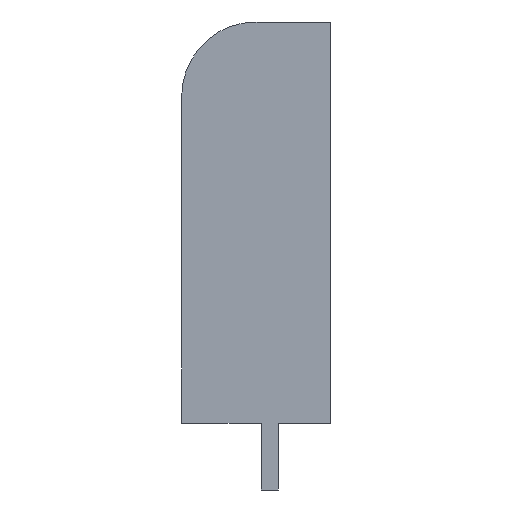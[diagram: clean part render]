
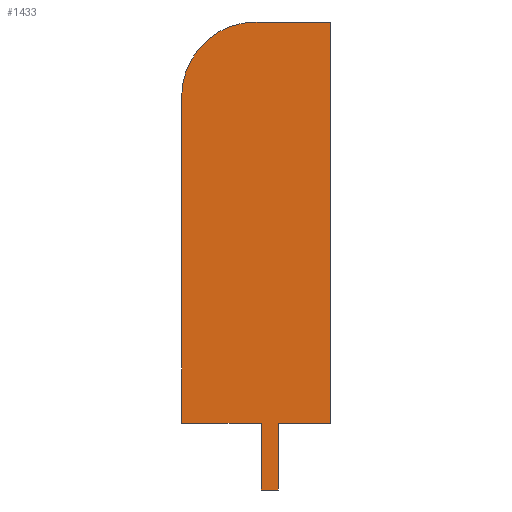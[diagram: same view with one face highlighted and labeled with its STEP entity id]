
A CAD part, left-side view. The second image highlights one B-rep face of the part: STEP entity #1433.
In plain terms, the highlighted planar face has unit normal (-1, 0, 0).
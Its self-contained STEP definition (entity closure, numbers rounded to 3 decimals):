
#43=PLANE('',#1534);
#132=FACE_OUTER_BOUND('',#215,.T.);
#215=EDGE_LOOP('',(#1289,#1290,#1291,#1292,#1293,#1294,#1295,#1296,#1297));
#238=CIRCLE('',#1516,5.);
#390=LINE('',#5804,#476);
#394=LINE('',#5812,#480);
#399=LINE('',#5827,#485);
#402=LINE('',#5833,#488);
#405=LINE('',#5838,#491);
#413=LINE('',#5852,#499);
#434=LINE('',#5898,#520);
#435=LINE('',#5900,#521);
#476=VECTOR('',#1708,10.);
#480=VECTOR('',#1714,10.);
#485=VECTOR('',#1727,10.);
#488=VECTOR('',#1732,10.);
#491=VECTOR('',#1737,10.);
#499=VECTOR('',#1749,10.);
#520=VECTOR('',#1792,10.);
#521=VECTOR('',#1795,10.);
#634=VERTEX_POINT('',#5802);
#635=VERTEX_POINT('',#5803);
#638=VERTEX_POINT('',#5811);
#640=VERTEX_POINT('',#5817);
#641=VERTEX_POINT('',#5818);
#644=VERTEX_POINT('',#5826);
#646=VERTEX_POINT('',#5832);
#651=VERTEX_POINT('',#5850);
#665=VERTEX_POINT('',#5896);
#832=EDGE_CURVE('',#634,#635,#390,.T.);
#836=EDGE_CURVE('',#638,#634,#394,.T.);
#839=EDGE_CURVE('',#640,#641,#238,.T.);
#843=EDGE_CURVE('',#644,#640,#399,.T.);
#846=EDGE_CURVE('',#646,#644,#402,.T.);
#849=EDGE_CURVE('',#635,#646,#405,.T.);
#857=EDGE_CURVE('',#651,#638,#413,.T.);
#880=EDGE_CURVE('',#665,#641,#434,.T.);
#881=EDGE_CURVE('',#651,#665,#435,.T.);
#1289=ORIENTED_EDGE('',*,*,#881,.T.);
#1290=ORIENTED_EDGE('',*,*,#880,.T.);
#1291=ORIENTED_EDGE('',*,*,#839,.F.);
#1292=ORIENTED_EDGE('',*,*,#843,.F.);
#1293=ORIENTED_EDGE('',*,*,#846,.F.);
#1294=ORIENTED_EDGE('',*,*,#849,.F.);
#1295=ORIENTED_EDGE('',*,*,#832,.F.);
#1296=ORIENTED_EDGE('',*,*,#836,.F.);
#1297=ORIENTED_EDGE('',*,*,#857,.F.);
#1433=ADVANCED_FACE('',(#132),#43,.T.);
#1516=AXIS2_PLACEMENT_3D('',#5819,#1719,#1720);
#1534=AXIS2_PLACEMENT_3D('',#5899,#1793,#1794);
#1708=DIRECTION('',(0.,1.,0.));
#1714=DIRECTION('',(0.,0.,-1.));
#1719=DIRECTION('center_axis',(1.,0.,0.));
#1720=DIRECTION('ref_axis',(0.,1.,0.));
#1727=DIRECTION('',(0.,0.,1.));
#1732=DIRECTION('',(0.,1.,0.));
#1737=DIRECTION('',(0.,0.,1.));
#1749=DIRECTION('',(0.,1.,0.));
#1792=DIRECTION('',(0.,1.,0.));
#1793=DIRECTION('center_axis',(-1.,0.,0.));
#1794=DIRECTION('ref_axis',(0.,0.,1.));
#1795=DIRECTION('',(0.,0.,1.));
#5802=CARTESIAN_POINT('',(-15.8,3.5,-4.5));
#5803=CARTESIAN_POINT('',(-15.8,4.65,-4.5));
#5804=CARTESIAN_POINT('',(-15.8,3.5,-4.5));
#5811=CARTESIAN_POINT('',(-15.8,3.5,0.));
#5812=CARTESIAN_POINT('',(-15.8,3.5,0.));
#5817=CARTESIAN_POINT('',(-15.8,10.,22.));
#5818=CARTESIAN_POINT('',(-15.8,5.,27.));
#5819=CARTESIAN_POINT('Origin',(-15.8,5.,22.));
#5826=CARTESIAN_POINT('',(-15.8,10.,0.));
#5827=CARTESIAN_POINT('',(-15.8,10.,0.));
#5832=CARTESIAN_POINT('',(-15.8,4.65,0.));
#5833=CARTESIAN_POINT('',(-15.8,0.,0.));
#5838=CARTESIAN_POINT('',(-15.8,4.65,-4.5));
#5850=CARTESIAN_POINT('',(-15.8,0.,0.));
#5852=CARTESIAN_POINT('',(-15.8,0.,0.));
#5896=CARTESIAN_POINT('',(-15.8,0.,27.));
#5898=CARTESIAN_POINT('',(-15.8,0.,27.));
#5899=CARTESIAN_POINT('Origin',(-15.8,0.,0.));
#5900=CARTESIAN_POINT('',(-15.8,0.,0.));
